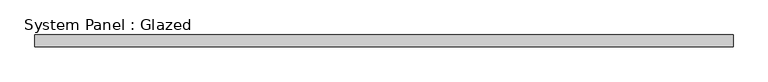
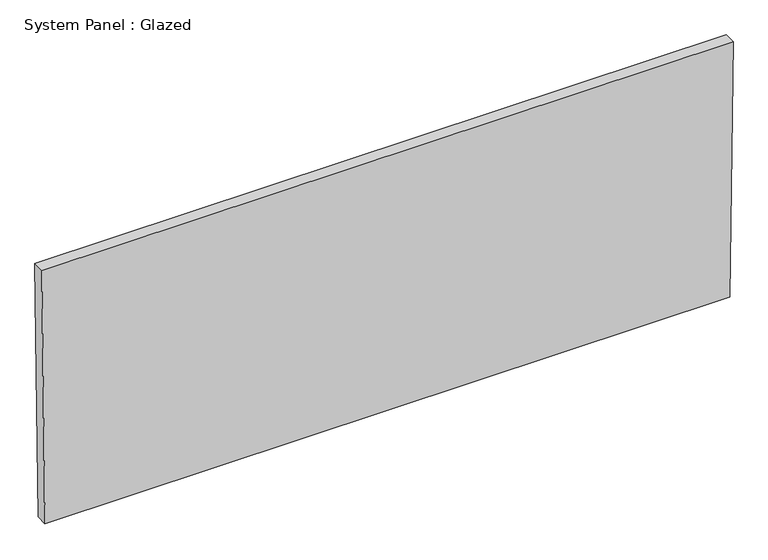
"""IFC4 building model written with IfcOpenShell, lengths in millimetres: plate geometry, System Panel : Glazed."""

from ifc_helpers import new_model, si_unit, frame, origin, place, context, project, spatial, polyline, outline, extrude, source, transform, mapped, element, save


def system_panel_glazed_7e9fb579(model_context):
    return source(origin(), model_context, "Body", "SweptSolid", [
        extrude(outline(polyline([(0.0, -743.1741464), (0.0, 743.1741464), (584.1562589, 750.1724001), (584.1562589, -750.1724001), (0.0, -743.1741464)])), frame((0.0, -44.45, 0.0), z_axis=(0.0, 1.0, 0.0), x_axis=(0.0, 0.0, 1.0)), (0.0, 0.0, 1.0), 25.4),
    ])


if __name__ == "__main__":
    model = new_model("IFC4")
    model_context = context("Model", 3, world=origin())
    ifc_project = project(units=[si_unit("LENGTHUNIT", "METRE", prefix="MILLI")], contexts=[model_context])
    site = spatial("IfcSite", under=ifc_project)
    building = spatial("IfcBuilding", under=site)
    placement = place(None, origin())
    system_panel_glazed_shape = system_panel_glazed_7e9fb579(model_context)
    element("IfcPlate", 1, ObjectType="System Panel : Glazed", at=placement, inside=building, context=model_context, shape_type="MappedRepresentation", body=[
        mapped(system_panel_glazed_shape, transform((0.0, 0.0, 0.0), x_axis=(1.0, 0.0, 0.0), y_axis=(0.0, 1.0, 0.0), z_axis=(0.0, 0.0, 1.0))),
    ])
    save(model, "model.ifc")
